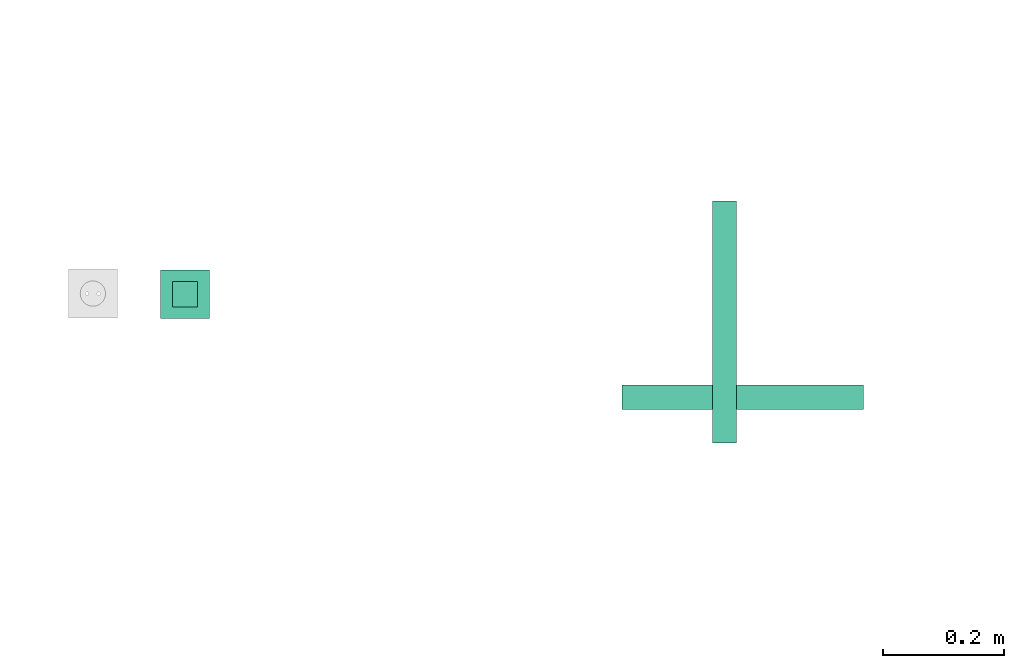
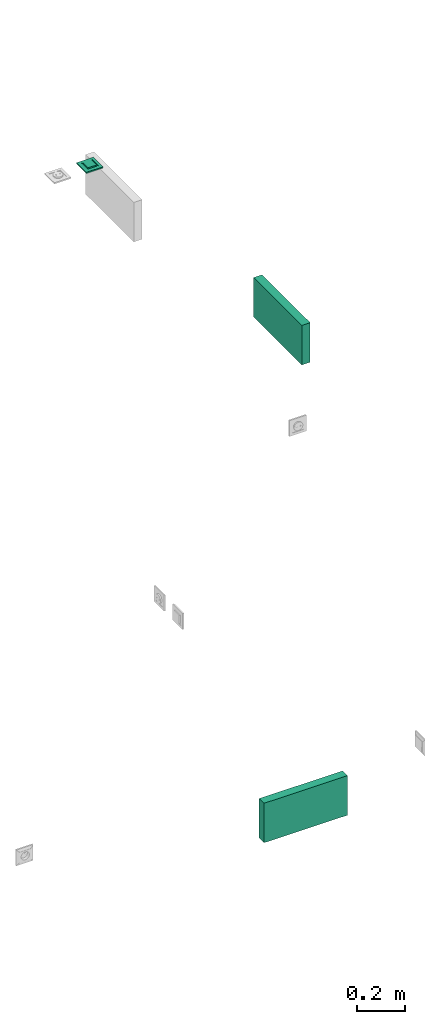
# One storey, part 56 of 146: 3 flow terminals.
"""IFC2X3 building model written with IfcOpenShell, lengths in metres."""

from ifc_helpers import new_model, entity, si_unit, converted_unit, derived_unit, direction, frame, frame_2d, origin, place, context, subcontext, project, spatial, rectangle, extrude, faceted_brep, source, transform, mapped, type_object, type_shapes, element, save


model = new_model("IFC2X3")

# Units and contexts
model_context = context("Model", 3, precision=1e-05, world=origin(), true_north=direction((6.12303176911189e-17, 1.0)))
body_context = subcontext(model_context, "Body", "Model", "MODEL_VIEW")
ifc_project = project(units=[si_unit("LENGTHUNIT", "METRE"), si_unit("AREAUNIT", "SQUARE_METRE"), si_unit("VOLUMEUNIT", "CUBIC_METRE"), converted_unit("PLANEANGLEUNIT", "DEGREE", entity("IfcRatioMeasure", 0.0174532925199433), si_unit("PLANEANGLEUNIT", "RADIAN"), dimensions=[0, 0, 0, 0, 0, 0, 0]), si_unit("MASSUNIT", "GRAM", prefix="KILO"), derived_unit("MASSDENSITYUNIT", [(si_unit("MASSUNIT", "GRAM", prefix="KILO"), 1), (si_unit("LENGTHUNIT", "METRE"), -3)]), si_unit("TIMEUNIT", "SECOND"), si_unit("FREQUENCYUNIT", "HERTZ"), si_unit("THERMODYNAMICTEMPERATUREUNIT", "DEGREE_CELSIUS"), derived_unit("THERMALTRANSMITTANCEUNIT", [(si_unit("MASSUNIT", "GRAM", prefix="KILO"), 1), (si_unit("THERMODYNAMICTEMPERATUREUNIT", "KELVIN"), -1), (si_unit("TIMEUNIT", "SECOND"), -3)]), derived_unit("VOLUMETRICFLOWRATEUNIT", [(si_unit("LENGTHUNIT", "METRE"), 3), (si_unit("TIMEUNIT", "SECOND"), -1)]), si_unit("ELECTRICCURRENTUNIT", "AMPERE"), si_unit("ELECTRICVOLTAGEUNIT", "VOLT"), si_unit("POWERUNIT", "WATT"), si_unit("FORCEUNIT", "NEWTON"), si_unit("ILLUMINANCEUNIT", "LUX"), si_unit("LUMINOUSFLUXUNIT", "LUMEN"), si_unit("LUMINOUSINTENSITYUNIT", "CANDELA"), derived_unit("USERDEFINED", [(si_unit("MASSUNIT", "GRAM", prefix="KILO"), -1), (si_unit("LENGTHUNIT", "METRE"), -2), (si_unit("TIMEUNIT", "SECOND"), 3), (si_unit("LUMINOUSFLUXUNIT", "LUMEN"), 1)]), derived_unit("LINEARVELOCITYUNIT", [(si_unit("LENGTHUNIT", "METRE"), 1), (si_unit("TIMEUNIT", "SECOND"), -1)]), si_unit("PRESSUREUNIT", "PASCAL"), derived_unit("USERDEFINED", [(si_unit("LENGTHUNIT", "METRE"), -2), (si_unit("MASSUNIT", "GRAM", prefix="KILO"), 1), (si_unit("TIMEUNIT", "SECOND"), -2)])], contexts=[model_context])

# Site, building, storey
site_placement = place(None, origin())
site = spatial("IfcSite", under=ifc_project, at=site_placement, Name="Default", CompositionType="ELEMENT")
building_placement = place(site_placement, origin())
building = spatial("IfcBuilding", under=site, at=building_placement, CompositionType="ELEMENT")
storey_placement = place(building_placement, origin())
storey = spatial("IfcBuildingStorey", under=building, at=storey_placement, Name="S01", CompositionType="ELEMENT", Elevation=0.0)

# Flow terminals
electric_appliance_type_1 = type_object("IfcElectricApplianceType", Name="RJ45 IP21", PredefinedType="NOTDEFINED")
shared_shape_1 = source(origin(), body_context, "Body", "Brep", [
    faceted_brep([(0.00200000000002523, 0.0, 0.00799999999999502), (0.00400000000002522, 0.0, 0.00799999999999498), (0.00500000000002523, 0.00199999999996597, 0.00799999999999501), (0.0110000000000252, 0.00199999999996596, 0.00799999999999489), (0.0120000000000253, 0.0, 0.00799999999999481), (0.0140000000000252, 0.0, 0.00799999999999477), (0.0140000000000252, 0.00399999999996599, 0.00799999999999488), (0.00200000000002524, 0.00399999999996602, 0.00799999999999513), (0.00200000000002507, 0.0, 0.0), (0.00200000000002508, 0.00399999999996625, 0.0), (0.0140000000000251, 0.00399999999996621, 0.0), (0.0140000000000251, 0.0, 0.0), (0.0120000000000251, 0.0, 0.0), (0.0110000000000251, 0.00199999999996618, 0.0), (0.00500000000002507, 0.0019999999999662, 0.0), (0.00400000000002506, 0.0, 0.0)], [[[0, 1, 2, 3, 4, 5, 6, 7]], [[8, 9, 10, 11, 12, 13, 14, 15]], [[1, 0, 8, 15]], [[2, 1, 15, 14]], [[3, 2, 14, 13]], [[4, 3, 13, 12]], [[5, 4, 12, 11]], [[6, 5, 11, 10]], [[7, 6, 10, 9]], [[0, 7, 9, 8]]]),
    faceted_brep([(-0.0139999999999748, 0.0, 0.00799999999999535), (-0.0119999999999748, 0.0, 0.00799999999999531), (-0.0109999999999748, 0.00199999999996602, 0.00799999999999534), (-0.00499999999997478, 0.00199999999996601, 0.00799999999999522), (-0.0039999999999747, 0.0, 0.00799999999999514), (-0.00199999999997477, 0.0, 0.0079999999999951), (-0.00199999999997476, 0.00399999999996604, 0.00799999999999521), (-0.0139999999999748, 0.00399999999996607, 0.00799999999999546), (-0.0139999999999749, 0.0, 0.0), (-0.0139999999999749, 0.00399999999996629, 0.0), (-0.00199999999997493, 0.00399999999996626, 0.0), (-0.00199999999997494, 0.0, 0.0), (-0.00399999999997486, 0.0, 0.0), (-0.00499999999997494, 0.00199999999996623, 0.0), (-0.0109999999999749, 0.00199999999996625, 0.0), (-0.0119999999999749, 0.0, 0.0)], [[[0, 1, 2, 3, 4, 5, 6, 7]], [[8, 9, 10, 11, 12, 13, 14, 15]], [[1, 0, 8, 15]], [[2, 1, 15, 14]], [[3, 2, 14, 13]], [[4, 3, 13, 12]], [[5, 4, 12, 11]], [[6, 5, 11, 10]], [[7, 6, 10, 9]], [[0, 7, 9, 8]]]),
    faceted_brep([(0.0140000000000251, 0.00399999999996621, 0.0), (0.00200000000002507, 0.00399999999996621, 0.0), (0.00200000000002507, -0.00350000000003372, 0.0), (0.0140000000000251, -0.00350000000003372, 0.0), (0.0140000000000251, 0.00399999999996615, 0.00199999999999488), (0.00200000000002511, 0.00399999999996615, 0.00199999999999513), (0.00200000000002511, -0.00393859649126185, 0.00199999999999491), (0.0140000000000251, -0.00393859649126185, 0.00199999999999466), (0.0210000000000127, 0.0209999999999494, 0.00199999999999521), (-0.0209999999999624, 0.0209999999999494, 0.00199999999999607), (-0.0209999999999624, -0.0210000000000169, 0.00199999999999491), (0.0210000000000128, -0.0210000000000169, 0.00199999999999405), (-0.0139999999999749, 0.0039999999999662, 0.00199999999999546), (-0.0019999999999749, 0.0039999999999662, 0.00199999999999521), (-0.00199999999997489, -0.0039385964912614, 0.00199999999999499), (-0.0139999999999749, -0.00393859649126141, 0.00199999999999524), (0.0210000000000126, 0.0209999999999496, -0.00460000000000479), (0.0210000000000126, -0.0210000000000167, -0.00460000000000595), (-0.0209999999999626, -0.0210000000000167, -0.00460000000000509), (-0.0209999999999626, 0.0209999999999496, -0.00460000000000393), (-0.00199999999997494, 0.00399999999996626, 0.0), (-0.0139999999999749, 0.00399999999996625, 0.0), (-0.0139999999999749, -0.00350000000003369, 0.0), (-0.00199999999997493, -0.00350000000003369, 0.0)], [[[0, 1, 2, 3]], [[1, 0, 4, 5]], [[2, 1, 5, 6]], [[3, 2, 6, 7]], [[0, 3, 7, 4]], [[5, 4, 7, 6], [8, 9, 10, 11], [12, 13, 14, 15]], [[16, 17, 18, 19]], [[9, 8, 16, 19]], [[10, 9, 19, 18]], [[11, 10, 18, 17]], [[8, 11, 17, 16]], [[20, 21, 22, 23]], [[21, 20, 13, 12]], [[22, 21, 12, 15]], [[23, 22, 15, 14]], [[20, 23, 14, 13]]], outer=[[True], [True], [True], [True], [True], [False, True, False], [True], [True], [True], [True], [True], [True], [True], [True], [True], [True]]),
    faceted_brep([(0.0270000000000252, 0.026999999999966, 0.0113999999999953), (-0.0269999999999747, 0.026999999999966, 0.0113999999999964), (-0.0269999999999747, -0.0270000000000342, 0.0113999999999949), (0.0270000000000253, -0.0270000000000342, 0.0113999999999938), (0.0020000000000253, 0.00399999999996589, 0.0113999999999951), (0.0140000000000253, 0.00399999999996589, 0.0113999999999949), (0.0140000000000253, -0.00600000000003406, 0.0113999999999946), (0.0020000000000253, -0.00600000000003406, 0.0113999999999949), (-0.0139999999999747, 0.00399999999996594, 0.0113999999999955), (-0.00199999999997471, 0.00399999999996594, 0.0113999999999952), (-0.00199999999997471, -0.0060000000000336, 0.0113999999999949), (-0.0139999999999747, -0.00600000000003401, 0.0113999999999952), (0.0270000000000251, 0.0269999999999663, 0.00199999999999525), (0.0270000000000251, -0.0270000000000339, 0.00199999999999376), (-0.0269999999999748, -0.0270000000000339, 0.00199999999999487), (-0.0269999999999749, 0.0269999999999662, 0.00199999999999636), (0.0140000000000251, 0.00399999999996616, 0.00199999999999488), (0.00200000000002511, 0.00399999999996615, 0.00199999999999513), (0.00200000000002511, -0.00393859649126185, 0.00199999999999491), (0.0140000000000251, -0.00393859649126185, 0.00199999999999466), (-0.00199999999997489, 0.0039999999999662, 0.00199999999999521), (-0.0139999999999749, 0.0039999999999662, 0.00199999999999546), (-0.0139999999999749, -0.0039385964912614, 0.00199999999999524), (-0.00199999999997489, -0.0039385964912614, 0.00199999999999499)], [[[0, 1, 2, 3], [4, 5, 6, 7], [8, 9, 10, 11]], [[12, 13, 14, 15], [16, 17, 18, 19], [20, 21, 22, 23]], [[1, 0, 12, 15]], [[2, 1, 15, 14]], [[3, 2, 14, 13]], [[0, 3, 13, 12]], [[4, 17, 16, 5]], [[17, 4, 7, 18]], [[18, 7, 6, 19]], [[5, 16, 19, 6]], [[8, 21, 20, 9]], [[21, 8, 11, 22]], [[22, 11, 10, 23]], [[9, 20, 23, 10]]]),
    faceted_brep([(0.027000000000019, 0.0269999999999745, 0.00659999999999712), (-0.0269999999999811, 0.0269999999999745, 0.00659999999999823), (-0.026999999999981, -0.0270000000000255, 0.00659999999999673), (0.027000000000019, -0.0270000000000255, 0.00659999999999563), (0.040350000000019, 0.0403499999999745, 0.00659999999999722), (0.040350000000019, -0.0403500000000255, 0.00659999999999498), (-0.0403499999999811, -0.0403500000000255, 0.00659999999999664), (-0.0403499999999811, 0.0403499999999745, 0.00659999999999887), (-0.026999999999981, 0.0269999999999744, 0.0103999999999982), (0.027000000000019, 0.0269999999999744, 0.0103999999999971), (-0.026999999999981, -0.0270000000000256, 0.0103999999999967), (0.027000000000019, -0.0270000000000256, 0.0103999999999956)], [[[0, 1, 2, 3], [4, 5, 6, 7]], [[4, 7, 8, 9]], [[7, 6, 10, 8]], [[6, 5, 11, 10]], [[5, 4, 9, 11]], [[0, 9, 8, 1]], [[1, 8, 10, 2]], [[2, 10, 11, 3]], [[9, 0, 3, 11]]], outer=[[False, True], [True], [True], [True], [True], [True], [True], [True], [True]]),
    faceted_brep([(0.040350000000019, 0.0403499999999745, 0.00659999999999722), (-0.0403499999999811, 0.0403499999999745, 0.00659999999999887), (-0.0403499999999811, -0.0403500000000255, 0.00659999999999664), (0.040350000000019, -0.0403500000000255, 0.00659999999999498), (-0.0269999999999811, 0.0269999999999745, 0.00659999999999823), (0.0270000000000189, 0.0269999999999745, 0.00659999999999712), (0.0270000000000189, -0.0270000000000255, 0.00659999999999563), (-0.0269999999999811, -0.0270000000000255, 0.00659999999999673), (0.0403500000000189, 0.0403499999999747, 0.0), (0.0403500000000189, -0.0403500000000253, 0.0), (-0.0403499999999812, -0.0403500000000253, 0.0), (-0.0403499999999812, 0.0403499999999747, 0.0), (0.0270000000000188, 0.0269999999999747, 0.0), (-0.0269999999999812, 0.0269999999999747, 0.0), (-0.0269999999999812, -0.0270000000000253, 0.0), (0.0270000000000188, -0.0270000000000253, 0.0)], [[[0, 1, 2, 3], [4, 5, 6, 7]], [[8, 9, 10, 11], [12, 13, 14, 15]], [[1, 0, 8, 11]], [[2, 1, 11, 10]], [[3, 2, 10, 9]], [[0, 3, 9, 8]], [[12, 5, 4, 13]], [[13, 4, 7, 14]], [[14, 7, 6, 15]], [[5, 12, 15, 6]]]),
])
type_shapes(electric_appliance_type_1, [shared_shape_1])
flow_terminal_1_placement = place(storey_placement, frame((52.6745323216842, -190.28047734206, 3.37), z_axis=(0.0, 0.0, -1.0), x_axis=(-1.0, 0.0, 0.0)))
element("IfcFlowTerminal", 1, at=flow_terminal_1_placement, inside=storey, type_object=electric_appliance_type_1, Name="INT_Prise RJ45:RJ45 IP21", ObjectType="INT_Prise RJ45:RJ45 IP21", context=body_context, shape_type="MappedRepresentation", body=[
    mapped(shared_shape_1, transform((0.0, 0.0, 0.0), scale=1.0)),
])
electric_appliance_type_2 = type_object("IfcElectricApplianceType", Name="Horloge secondaire", PredefinedType="NOTDEFINED")
shared_shape_2 = source(origin(), body_context, "Body", "SweptSolid", [
    extrude(rectangle(XDim=0.4, YDim=0.04, at=frame_2d((0.0, 1.73472347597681e-18), x_axis=(1.0, 0.0))), frame((0.0, 0.0, -0.199999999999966)), (0.0, 0.0, 1.0), 0.2),
])
type_shapes(electric_appliance_type_2, [shared_shape_2])
flow_terminal_2_placement = place(storey_placement, frame((53.5677436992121, -190.326566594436, 2.4), z_axis=(0.0, 0.0, 1.0), x_axis=(0.0, -1.0, 0.0)))
element("IfcFlowTerminal", 2, at=flow_terminal_2_placement, inside=storey, type_object=electric_appliance_type_2, Name="E_Clock_One Side Ceiling_MEPcontent:Horloge secondaire", ObjectType="E_Clock_One Side Ceiling_MEPcontent:Horloge secondaire", context=body_context, shape_type="MappedRepresentation", body=[
    mapped(shared_shape_2, transform((0.0, 0.0, 0.0), scale=1.0)),
])
electric_appliance_type_3 = type_object("IfcElectricApplianceType", Name="Horloge secondaire", PredefinedType="NOTDEFINED")
shared_shape_3 = source(origin(), body_context, "Body", "SweptSolid", [
    extrude(rectangle(XDim=0.4, YDim=0.04, at=frame_2d((0.0, 1.73472347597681e-18), x_axis=(1.0, 0.0))), frame((0.0, 0.0, -0.199999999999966)), (0.0, 0.0, 1.0), 0.2),
])
type_shapes(electric_appliance_type_3, [shared_shape_3])
flow_terminal_3_placement = place(building_placement, frame((53.5979300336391, -190.451155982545, 0.0)))
element("IfcFlowTerminal", 3, at=flow_terminal_3_placement, inside=storey, type_object=electric_appliance_type_3, Name="E_Clock_One Side Ceiling_MEPcontent:Horloge secondaire", ObjectType="E_Clock_One Side Ceiling_MEPcontent:Horloge secondaire", context=body_context, shape_type="MappedRepresentation", body=[
    mapped(shared_shape_3, transform((0.0, 0.0, 0.0), scale=1.0)),
])

save(model, "model.ifc")
